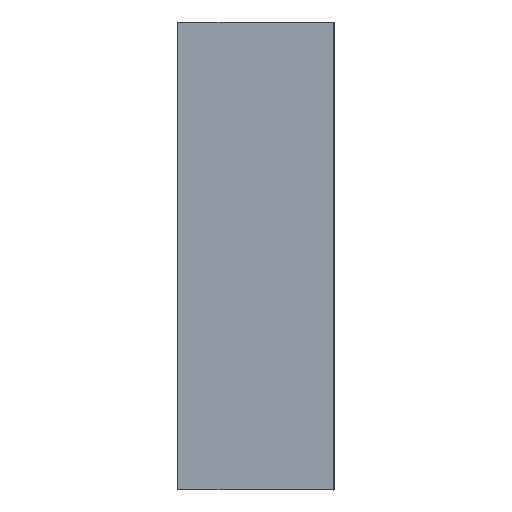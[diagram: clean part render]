
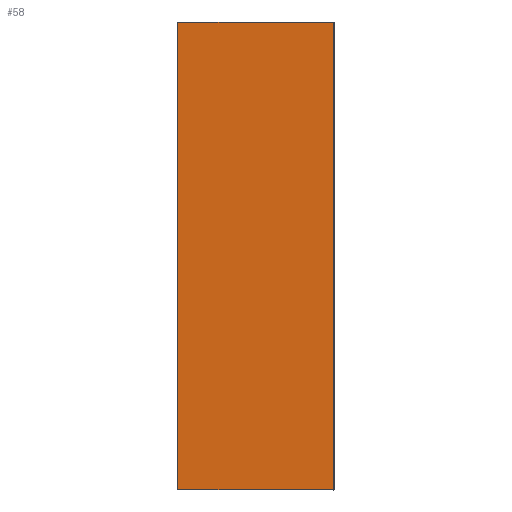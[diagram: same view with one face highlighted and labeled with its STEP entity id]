
A CAD part, top view. The second image highlights one B-rep face of the part: STEP entity #58.
In plain terms, the highlighted planar face has unit normal (-0.052, 0, 0.999).
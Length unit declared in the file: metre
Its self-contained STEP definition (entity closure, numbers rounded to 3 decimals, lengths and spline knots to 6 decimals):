
#58=ADVANCED_FACE('0:424',(#75),#76,.T.);
#75=FACE_OUTER_BOUND('',#92,.T.);
#76=PLANE('',#93);
#92=EDGE_LOOP('',(#148,#149,#150,#151));
#93=AXIS2_PLACEMENT_3D('',#152,#153,#154);
#148=ORIENTED_EDGE('',*,*,#167,.F.);
#149=ORIENTED_EDGE('',*,*,#173,.F.);
#150=ORIENTED_EDGE('',*,*,#171,.F.);
#151=ORIENTED_EDGE('',*,*,#162,.F.);
#152=CARTESIAN_POINT('',(0.,0.0,0.));
#153=DIRECTION('',(-0.052,0.0,0.999));
#154=DIRECTION('',(0.999,0.0,0.052));
#162=EDGE_CURVE('0:442',#185,#187,#188,.T.);
#167=EDGE_CURVE('0:430',#195,#185,#196,.T.);
#171=EDGE_CURVE('0:451',#187,#200,#201,.T.);
#173=EDGE_CURVE('0:460',#200,#195,#203,.T.);
#185=VERTEX_POINT('',#218);
#187=VERTEX_POINT('',#220);
#188=LINE('',#221,#222);
#195=VERTEX_POINT('',#232);
#196=LINE('',#233,#234);
#200=VERTEX_POINT('',#238);
#201=LINE('',#239,#240);
#203=LINE('',#242,#243);
#218=CARTESIAN_POINT('',(0.059918,0.06,0.00314));
#220=CARTESIAN_POINT('',(0.059918,0.0,0.00314));
#221=CARTESIAN_POINT('',(0.059918,0.0,0.00314));
#222=VECTOR('',#256,1.0);
#232=CARTESIAN_POINT('',(0.039945,0.06,0.002093));
#233=CARTESIAN_POINT('',(0.059918,0.06,0.00314));
#234=VECTOR('',#263,1.0);
#238=CARTESIAN_POINT('',(0.039945,0.0,0.002093));
#239=CARTESIAN_POINT('',(0.039945,0.0,0.002093));
#240=VECTOR('',#273,1.0);
#242=CARTESIAN_POINT('',(0.039945,0.06,0.002093));
#243=VECTOR('',#277,1.0);
#256=DIRECTION('',(0.0,-1.0,-0.0));
#263=DIRECTION('',(0.999,0.0,0.052));
#273=DIRECTION('',(-0.999,-0.0,-0.052));
#277=DIRECTION('',(0.0,1.0,0.0));
